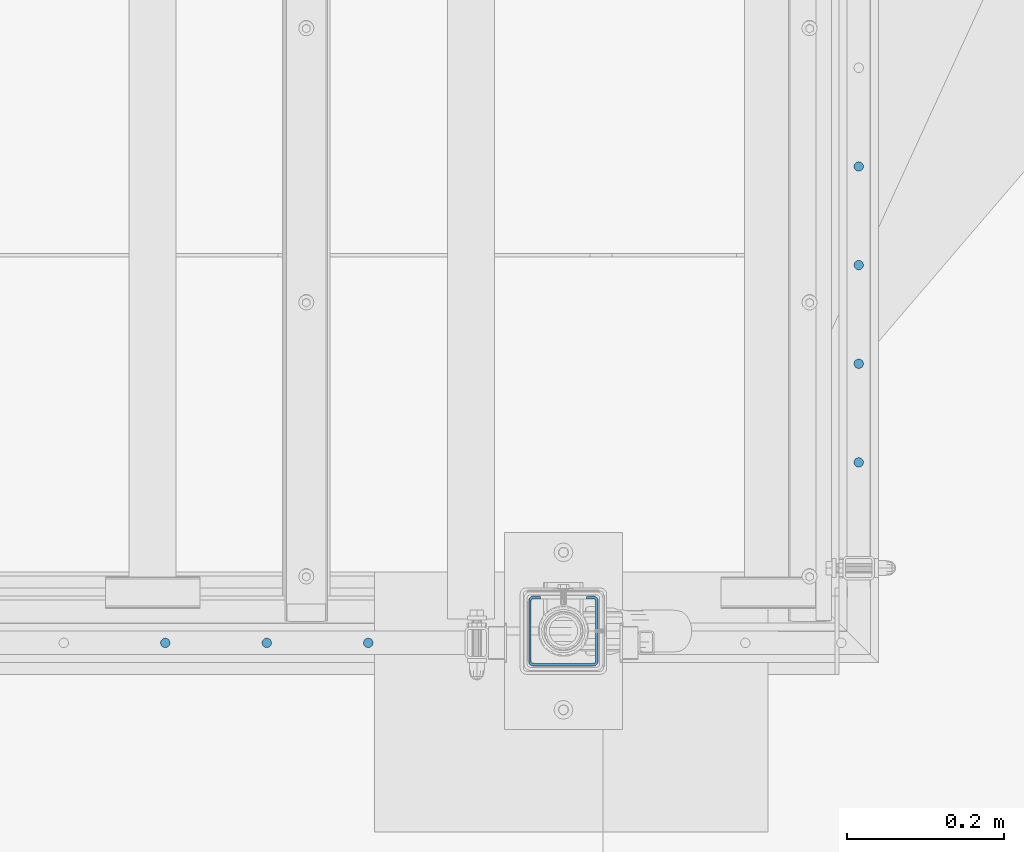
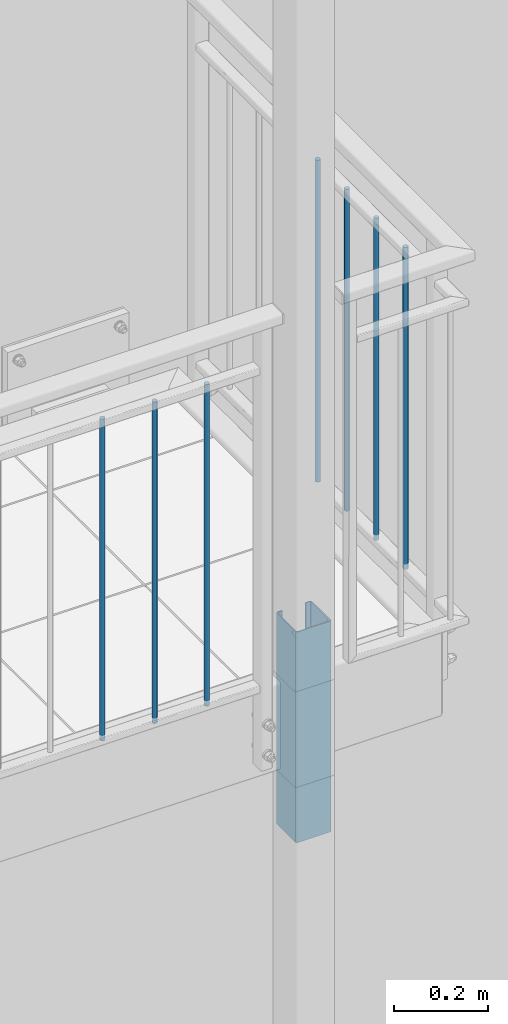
# One storey, part 31 of 162: 8 columns, 2 openings.
"""IFC2X3 building model written with IfcOpenShell, lengths in millimetres."""

from ifc_helpers import new_model, entity, si_unit, converted_unit, point, frame, frame_2d, origin, origin_with_axes, origin_2d, place, context, project, spatial, circle_curve, line_curve, trimmed, segment, composite_curve, circle, outline, extrude, material, element, save


model = new_model("IFC2X3")

# Units and contexts
model_context = context("Model", 3, precision=1e-09, world=origin_with_axes())
ifc_project = project(units=[si_unit("LENGTHUNIT", "METRE", prefix="MILLI"), si_unit("AREAUNIT", "SQUARE_METRE"), si_unit("VOLUMEUNIT", "CUBIC_METRE"), converted_unit("PLANEANGLEUNIT", "DEGREE", entity("IfcPlaneAngleMeasure", 0.01745329), si_unit("PLANEANGLEUNIT", "RADIAN"), dimensions=[0, 0, 0, 0, 0, 0, 0])], contexts=[model_context])

# Site, building, storey
site_placement = place(None, origin_with_axes())
site = spatial("IfcSite", under=ifc_project, at=site_placement, Name="Hermannstra?e 1a, 60318 Frankfurt", CompositionType="ELEMENT")
building_placement = place(site_placement, origin_with_axes())
building = spatial("IfcBuilding", under=site, at=building_placement, Name="Struktur 1", CompositionType="ELEMENT")
storey_placement = place(building_placement, origin_with_axes())
storey = spatial("IfcBuildingStorey", under=building, at=storey_placement, Name="Default Storey", CompositionType="ELEMENT", Elevation=0.0)

# Column, openings
ifc_material = material(Name="S235JR")
column_placement = place(None, frame((5473.30936482, 1530.609373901, 4115.0), z_axis=(0.0, 0.0, 1.0), x_axis=(0.0, 1.0, 0.0)))
column = element("IfcColumn", 1, at=column_placement, inside=storey, material=ifc_material, Name="-", ObjectType="-", context=model_context, shape_type="SweptSolid", body=[
    extrude(outline(composite_curve([segment(trimmed(line_curve((44.0, 29.0), (0.0, 1.0), 10.0), [point((44.0, 29.0))], [point((44.0, 39.0))], True, "CARTESIAN"), True, "CONTINUOUS"), segment(trimmed(circle_curve(frame_2d((39.0, 39.0), x_axis=(1.0, 0.0)), 5.0), [point((44.0, 39.0))], [point((39.0, 44.0))], True, "CARTESIAN"), True, "CONTINUOUS"), segment(trimmed(line_curve((39.0, 44.0), (-1.0, 0.0), 78.0), [point((39.0, 44.0))], [point((-39.0, 44.0))], True, "CARTESIAN"), True, "CONTINUOUS"), segment(trimmed(circle_curve(frame_2d((-39.0, 39.0), x_axis=(1.0, 0.0)), 5.0), [point((-39.0, 44.0))], [point((-44.0, 39.0))], True, "CARTESIAN"), True, "CONTINUOUS"), segment(trimmed(line_curve((-44.0, 39.0), (0.0, -1.0), 78.0), [point((-44.0, 39.0))], [point((-44.0, -39.0))], True, "CARTESIAN"), True, "CONTINUOUS"), segment(trimmed(circle_curve(frame_2d((-39.0, -39.0), x_axis=(1.0, 0.0)), 5.0), [point((-44.0, -39.0))], [point((-39.0, -44.0))], True, "CARTESIAN"), True, "CONTINUOUS"), segment(trimmed(line_curve((-39.0, -44.0), (1.0, 0.0), 78.0), [point((-39.0, -44.0))], [point((39.0, -44.0))], True, "CARTESIAN"), True, "CONTINUOUS"), segment(trimmed(circle_curve(frame_2d((39.0, -39.0), x_axis=(1.0, 0.0)), 5.0), [point((39.0, -44.0))], [point((44.0, -39.0))], True, "CARTESIAN"), True, "CONTINUOUS"), segment(trimmed(line_curve((44.0, -39.0), (0.0, 1.0), 10.0), [point((44.0, -39.0))], [point((44.0, -29.0))], True, "CARTESIAN"), True, "CONTINUOUS"), segment(trimmed(line_curve((44.0, -29.0), (-1.0, 0.0), 3.0), [point((44.0, -29.0))], [point((41.0, -29.0))], True, "CARTESIAN"), True, "CONTINUOUS"), segment(trimmed(line_curve((41.0, -29.0), (0.0, -1.0), 10.0), [point((41.0, -29.0))], [point((41.0, -39.0))], True, "CARTESIAN"), True, "CONTINUOUS"), segment(trimmed(circle_curve(frame_2d((39.0, -39.0), x_axis=(-1.0, 0.0)), 2.0), [point((41.0, -39.0))], [point((39.0, -41.0))], False, "CARTESIAN"), True, "CONTINUOUS"), segment(trimmed(line_curve((39.0, -41.0), (-1.0, 0.0), 78.0), [point((39.0, -41.0))], [point((-39.0, -41.0))], True, "CARTESIAN"), True, "CONTINUOUS"), segment(trimmed(circle_curve(frame_2d((-39.0, -39.0), x_axis=(-1.0, 0.0)), 2.0), [point((-39.0, -41.0))], [point((-41.0, -39.0))], False, "CARTESIAN"), True, "CONTINUOUS"), segment(trimmed(line_curve((-41.0, -39.0), (0.0, 1.0), 78.0), [point((-41.0, -39.0))], [point((-41.0, 39.0))], True, "CARTESIAN"), True, "CONTINUOUS"), segment(trimmed(circle_curve(frame_2d((-39.0, 39.0), x_axis=(-1.0, 0.0)), 2.0), [point((-41.0, 39.0))], [point((-39.0, 41.0))], False, "CARTESIAN"), True, "CONTINUOUS"), segment(trimmed(line_curve((-39.0, 41.0), (1.0, 0.0), 78.0), [point((-39.0, 41.0))], [point((39.0, 41.0))], True, "CARTESIAN"), True, "CONTINUOUS"), segment(trimmed(circle_curve(frame_2d((39.0, 39.0), x_axis=(-1.0, 0.0)), 2.0), [point((39.0, 41.0))], [point((41.0, 39.0))], False, "CARTESIAN"), True, "CONTINUOUS"), segment(trimmed(line_curve((41.0, 39.0), (0.0, -1.0), 10.0), [point((41.0, 39.0))], [point((41.0, 29.0))], True, "CARTESIAN"), True, "CONTINUOUS"), segment(trimmed(line_curve((41.0, 29.0), (1.0, 0.0), 3.0), [point((41.0, 29.0))], [point((44.0, 29.0))], True, "CARTESIAN"), True, "CONTINUOUS")], self_intersect=False)), origin(), (0.0, 0.0, -1.0), 550.0),
])
opening_1_placement = place(column_placement, frame((-38.001, 40.5, -9.0), z_axis=(0.0, -1.0, 0.0), x_axis=(1.0, 0.0, 0.0)))
element("IfcOpeningElement", 2, at=opening_1_placement, cuts=column, ObjectType="Opening", context=model_context, shape_type="SweptSolid", body=[
    extrude(circle(Radius=5.001, at=frame_2d((5.001, 0.0), x_axis=(1.0, 0.0))), origin(), (0.0, 0.0, -1.0), 4.0),
])
opening_2_placement = place(column_placement, frame((0.0, -40.5, -160.0), z_axis=(0.0, -1.0, 0.0), x_axis=(1.0, 0.0, 0.0)))
element("IfcOpeningElement", 3, at=opening_2_placement, cuts=column, ObjectType="Opening", context=model_context, shape_type="SweptSolid", body=[
    extrude(circle(Radius=5.001, at=frame_2d((-33.0, 151.0), x_axis=(1.0, 0.0))), origin(), (0.0, 0.0, 1.0), 4.0),
])

# Columns
for number, where, z_axis, x_axis in (
    (4, (5848.30936482, 2120.609373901, 3980.0), (0.0, 0.0, -1.0), (0.0, -1.0, 0.0)),
    (5, (5848.30936482, 1995.359373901, 3980.0), (0.0, 0.0, -1.0), (0.0, -1.0, 0.0)),
    (6, (5848.30936482, 1870.109373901, 3980.0), (0.0, 0.0, -1.0), (0.0, -1.0, 0.0)),
    (7, (5848.30936482, 1744.859373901, 3980.0), (0.0, 0.0, -1.0), (0.0, -1.0, 0.0)),
    (8, (4967.737936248, 1515.609373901, 3980.0), (0.0, 0.0, -1.0), (1.0, 0.0, 0.0)),
    (9, (5096.595079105, 1515.609373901, 3980.0), (0.0, 0.0, -1.0), (1.0, 0.0, 0.0)),
    (10, (5225.452221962, 1515.609373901, 3980.0), (0.0, 0.0, -1.0), (1.0, 0.0, 0.0)),
):
    element("IfcColumn", number, at=place(None, frame(where, z_axis=z_axis, x_axis=x_axis)), inside=storey, material=ifc_material, Name="-", ObjectType="-", context=model_context, shape_type="SweptSolid", body=[
        extrude(circle(Radius=6.0, at=origin_2d()), origin(), (0.0, 0.0, -1.0), 840.0),
    ])

save(model, "model.ifc")
